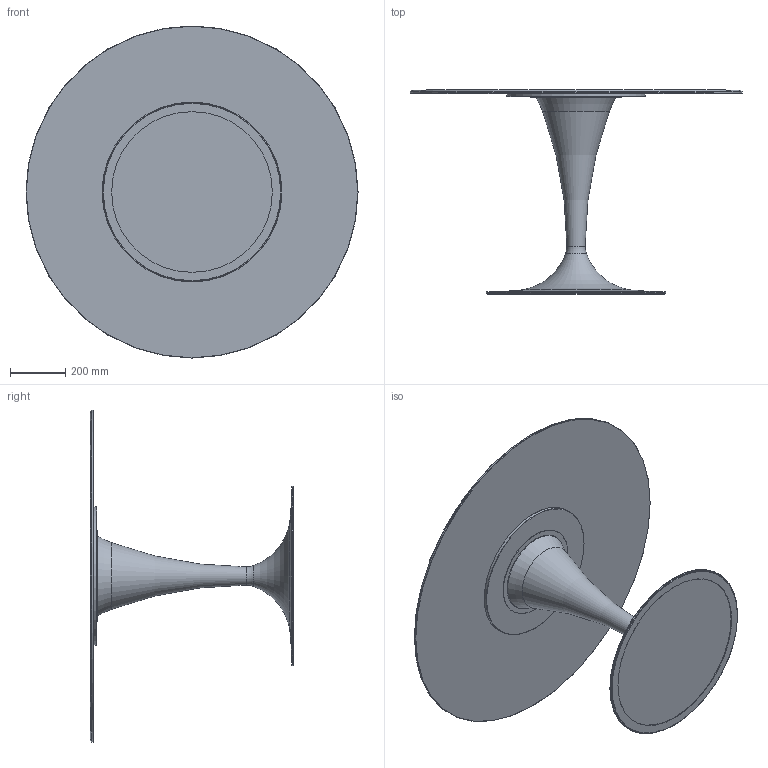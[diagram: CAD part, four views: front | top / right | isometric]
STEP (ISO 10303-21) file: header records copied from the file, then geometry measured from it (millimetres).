
FILE_DESCRIPTION((''),'2;1');
FILE_NAME('C:\AutodeskVault\AreaLavoro\Progetti\SoVeT Italia\1. Tavoli_Dining tables\Flûte\Web file\Flûte Web\P1650 Contorno semplificato.stp','2012-05-02T11:30:14',('Gianluca'),('So.Ve.T. s.r.l.'),'Autodesk Inventor 2011','Autodesk Inventor 2011','IL PROGETTO E'' DI ESCLUSIVA PROPRIETA'' DELLA SO.VE.T. srl. E'' VIETATA OGNI RIPRODUZIONE TOTALE O PARZIALE E QUALSIASI UTILIZZO NON AUTORIZZATO.');
FILE_SCHEMA(('AUTOMOTIVE_DESIGN { 1 0 10303 214 1 1 1 1 }'));
Length unit declared in the file: millimetre
Products named in the file (1): P1650 Contorno semplificato
Bounding box: 1200 x 737 x 1200 mm (x, y, z)
Volume: 32471427.5 mm3; surface area: 3199075 mm2
Topology: 1 solids, 1 shells, 26 faces, 44 edges, 26 vertices
Faces by surface type: plane 8, torus 7, cylinder 6, cone 4, bspline 1
Full cylindrical faces by diameter (mm): 330 x1, 500 x1, 581 x1, 641 x1, 650 x1, 1200 x1
Entity records: 602 total; most frequent: CARTESIAN_POINT 103, DIRECTION 102, AXIS2_PLACEMENT_3D 51, ORIENTED_EDGE 50, EDGE_LOOP 50, STYLED_ITEM 27, FACE_OUTER_BOUND 26, ADVANCED_FACE 26
